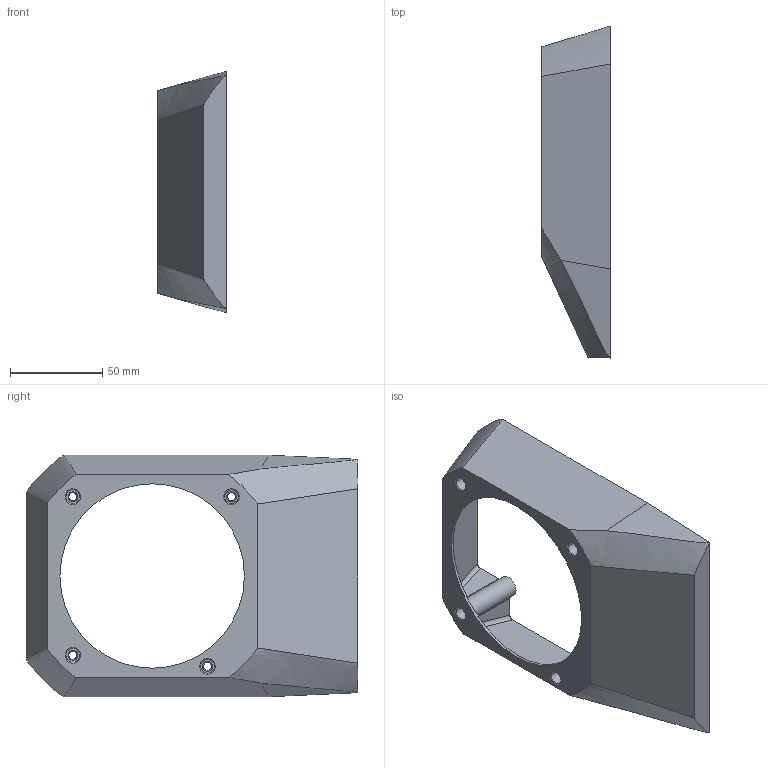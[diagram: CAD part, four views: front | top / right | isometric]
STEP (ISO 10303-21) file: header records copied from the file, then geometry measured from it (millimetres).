
FILE_DESCRIPTION((''),'2;1');
FILE_NAME('KD-B-104R_SHOULDER_1_1_1','2025-07-12T13:49:03',('Administrator'),(''),'CREO PARAMETRIC BY PTC INC, 2022073','CREO PARAMETRIC BY PTC INC, 2022073','');
FILE_SCHEMA(('CONFIG_CONTROL_DESIGN'));
Length unit declared in the file: millimetre
Products named in the file (1): KD-B-104R_SHOULDER_1_1_1
Bounding box: 37 x 179.84 x 130.89 mm (x, y, z)
Volume: 60969 mm3; surface area: 72569.9 mm2
Topology: 1 solids, 1 shells, 140 faces, 393 edges, 264 vertices
Faces by surface type: cylinder 56, plane 48, bspline 20, cone 16
Entity records: 8426 total; most frequent: CARTESIAN_POINT 4883, ORIENTED_EDGE 786, DIRECTION 659, EDGE_CURVE 393, VERTEX_POINT 264, AXIS2_PLACEMENT_3D 247, VECTOR 165, LINE 165
